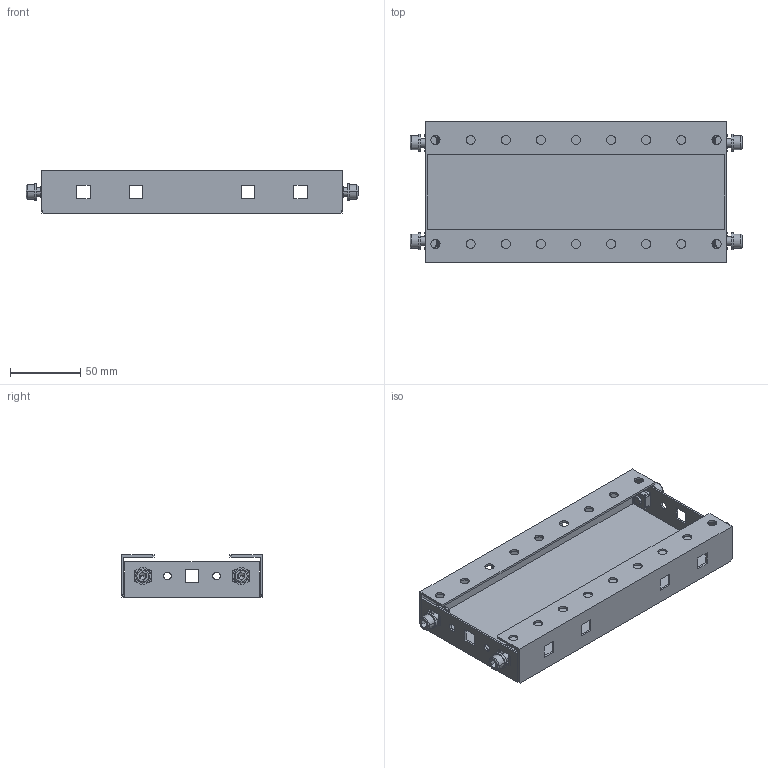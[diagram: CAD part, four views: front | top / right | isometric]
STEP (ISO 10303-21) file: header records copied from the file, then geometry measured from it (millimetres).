
FILE_DESCRIPTION(('Open CASCADE Model'),'2;1');
FILE_NAME('Open CASCADE Shape Model','2025-02-07T17:53:28',('Author'),( 'Open CASCADE'),'Open CASCADE STEP processor 7.8','Open CASCADE 7.8' ,'Unknown');
FILE_SCHEMA(('AUTOMOTIVE_DESIGN { 1 0 10303 214 1 1 1 1 }'));
Length unit declared in the file: millimetre
Products named in the file (5): Compound1; Solid1; Solid2; Solid3; Solid4
Assembly tree (13 placements, depth 2):
  Compound1
    Solid1
    Solid2  x4
    Solid3  x4
    Solid4  x4
Bounding box: 236.2 x 100 x 30 mm (x, y, z)
Volume: 74012.2 mm3; surface area: 101121.2 mm2
Topology: 13 solids, 13 shells, 704 faces, 1958 edges, 1272 vertices
Faces by surface type: plane 378, cylinder 262, cone 32, bspline 16, torus 16
Full cylindrical faces by diameter (mm): 5.5 x4, 6.5 x18
Entity records: 21969 total; most frequent: CARTESIAN_POINT 14851, ORIENTED_EDGE 1524, DIRECTION 1340, EDGE_CURVE 762, VERTEX_POINT 501, LINE 478, VECTOR 478, AXIS2_PLACEMENT_3D 431
